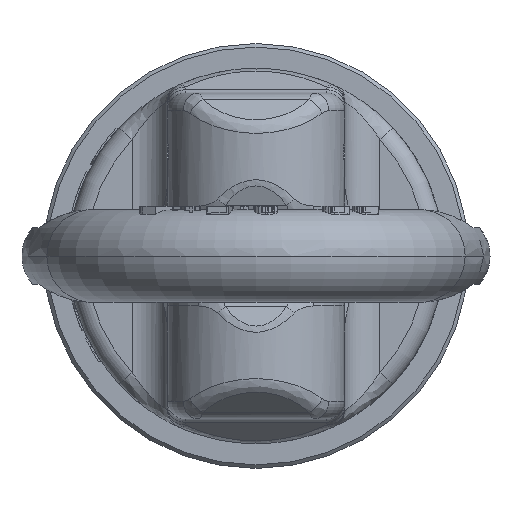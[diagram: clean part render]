
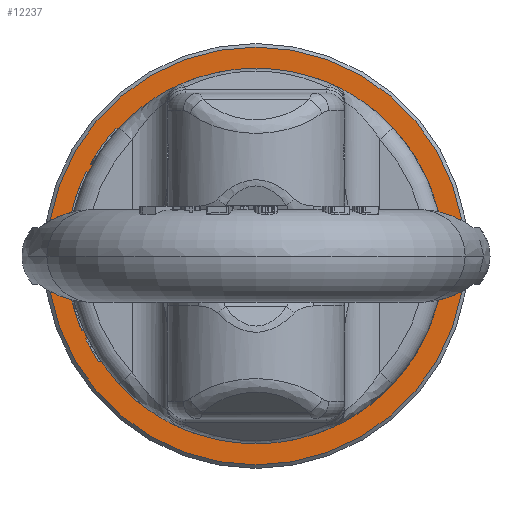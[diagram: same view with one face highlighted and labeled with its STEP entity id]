
A CAD part, left-side view. The second image highlights one B-rep face of the part: STEP entity #12237.
In plain terms, the highlighted planar face has unit normal (-1, 0, 0) as drawn and (0, 0, -1) by its records, which use the part's own axes.
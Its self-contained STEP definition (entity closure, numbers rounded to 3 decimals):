
#12110=CARTESIAN_POINT('',(0.,0.,0.));
#12111=DIRECTION('',(0.,0.,-1.));
#12112=DIRECTION('',(1.,0.,0.));
#12113=AXIS2_PLACEMENT_3D('',#12110,#12111,#12112);
#12115=CARTESIAN_POINT('',(0.,0.,0.));
#12116=DIRECTION('',(0.,0.,-1.));
#12117=DIRECTION('',(-1.,0.,0.));
#12118=AXIS2_PLACEMENT_3D('',#12115,#12116,#12117);
#12210=CARTESIAN_POINT('',(29.5,0.,0.));
#12211=CARTESIAN_POINT('',(-29.5,0.,0.));
#12212=VERTEX_POINT('',#12210);
#12213=VERTEX_POINT('',#12211);
#12226=CARTESIAN_POINT('',(0.,0.,0.));
#12227=DIRECTION('',(0.,0.,1.));
#12228=DIRECTION('',(1.,0.,0.));
#12229=AXIS2_PLACEMENT_3D('',#12226,#12227,#12228);
#12230=PLANE('',#12229);
#12232=ORIENTED_EDGE('',*,*,#12231,.F.);
#12234=ORIENTED_EDGE('',*,*,#12233,.F.);
#12235=EDGE_LOOP('',(#12232,#12234));
#12236=FACE_OUTER_BOUND('',#12235,.F.);
#12237=ADVANCED_FACE('',(#12236),#12230,.F.);
#12114=CIRCLE('',#12113,29.5);
#12119=CIRCLE('',#12118,29.5);
#12231=EDGE_CURVE('',#12212,#12213,#12114,.T.);
#12233=EDGE_CURVE('',#12213,#12212,#12119,.T.);
